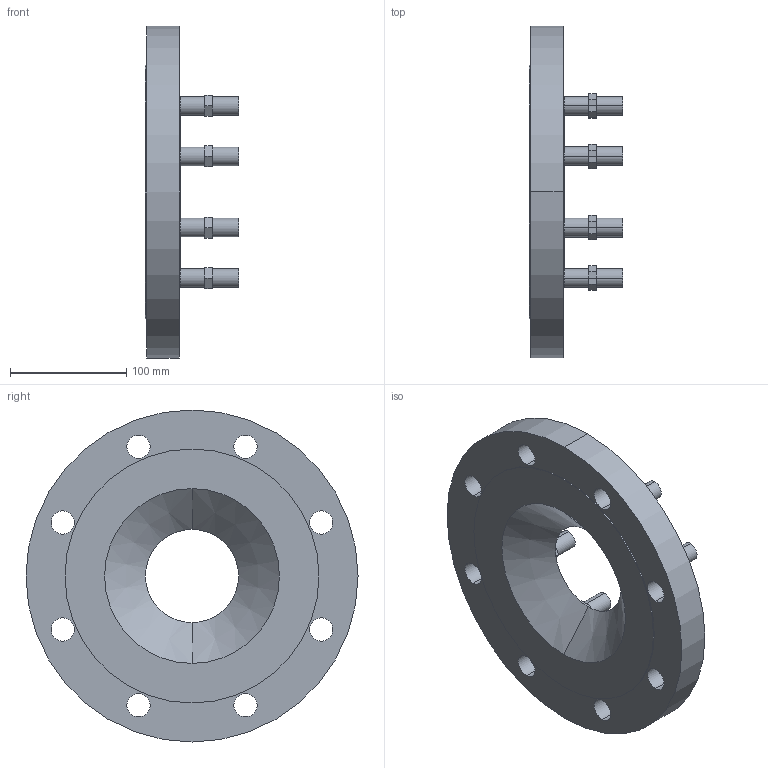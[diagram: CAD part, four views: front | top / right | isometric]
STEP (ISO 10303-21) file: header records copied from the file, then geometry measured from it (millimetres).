
FILE_DESCRIPTION(('STEP AP214'),'1');
FILE_NAME('U:/VDI-Daten/8110_(0802)/8110_PN16_DN150_DN80.STP','2012-06-18T12:18:38',(' '),(' '),'Spatial InterOp 3D',' ',' ');
FILE_SCHEMA(('automotive_design'));
Length unit declared in the file: millimetre
Products named in the file (18): 3D-Objekt
Bounding box: 80 x 285 x 285 mm (x, y, z)
Volume: 1542584.6 mm3; surface area: 226150.7 mm2
Topology: 18 solids, 18 shells, 127 faces, 270 edges, 180 vertices
Faces by surface type: plane 85, cylinder 40, cone 2
Entity records: 4900 total; most frequent: DIRECTION 644, CARTESIAN_POINT 595, ORIENTED_EDGE 540, EDGE_CURVE 270, AXIS2_PLACEMENT_3D 229, LINE 186, VECTOR 186, VERTEX_POINT 180
